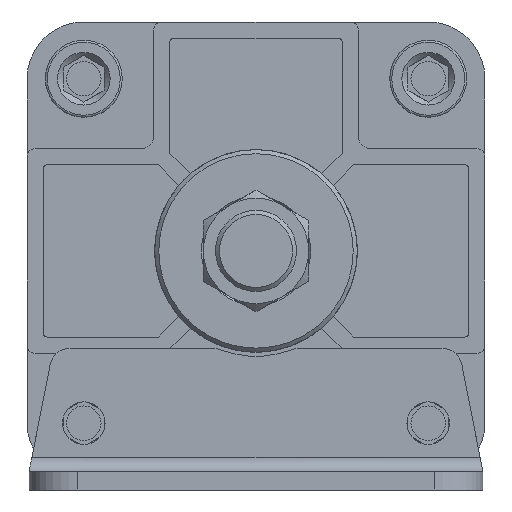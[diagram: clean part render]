
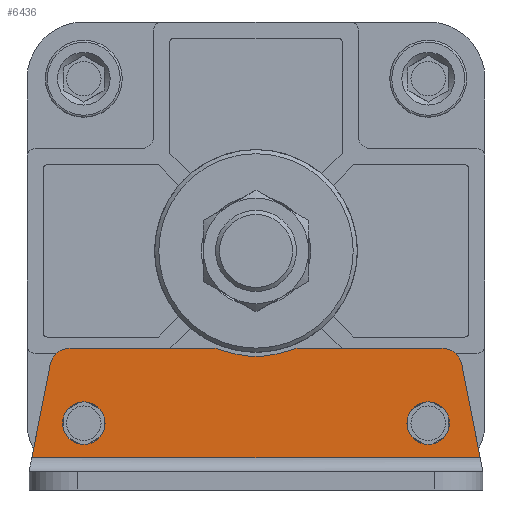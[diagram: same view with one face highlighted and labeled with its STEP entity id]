
A CAD part, front view. The second image highlights one B-rep face of the part: STEP entity #6436.
In plain terms, the highlighted planar face has unit normal (0, -1, 0).
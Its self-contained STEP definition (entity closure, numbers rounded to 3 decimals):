
#564=LINE('',#9686,#954);
#568=LINE('',#9697,#958);
#572=LINE('',#9710,#962);
#576=LINE('',#9719,#966);
#580=LINE('',#9737,#970);
#954=VECTOR('',#8213,1000.);
#958=VECTOR('',#8221,1000.);
#962=VECTOR('',#8233,1000.);
#966=VECTOR('',#8239,1000.);
#970=VECTOR('',#8257,1000.);
#2102=ORIENTED_EDGE('',*,*,#2851,.T.);
#2103=ORIENTED_EDGE('',*,*,#2852,.T.);
#2104=ORIENTED_EDGE('',*,*,#2836,.T.);
#2105=ORIENTED_EDGE('',*,*,#2853,.T.);
#2106=ORIENTED_EDGE('',*,*,#2838,.T.);
#2107=ORIENTED_EDGE('',*,*,#2854,.T.);
#2108=ORIENTED_EDGE('',*,*,#2842,.T.);
#2109=ORIENTED_EDGE('',*,*,#2855,.T.);
#2110=ORIENTED_EDGE('',*,*,#2846,.T.);
#2111=ORIENTED_EDGE('',*,*,#2856,.T.);
#2112=ORIENTED_EDGE('',*,*,#2831,.T.);
#2113=ORIENTED_EDGE('',*,*,#2857,.T.);
#2831=EDGE_CURVE('',#3318,#3317,#564,.T.);
#2836=EDGE_CURVE('',#3323,#3322,#568,.T.);
#2838=EDGE_CURVE('',#3324,#3325,#3565,.T.);
#2842=EDGE_CURVE('',#3328,#3329,#572,.T.);
#2846=EDGE_CURVE('',#3332,#3333,#576,.T.);
#2851=EDGE_CURVE('',#3337,#3337,#3567,.T.);
#2852=EDGE_CURVE('',#3338,#3338,#3568,.T.);
#2853=EDGE_CURVE('',#3322,#3324,#3569,.F.);
#2854=EDGE_CURVE('',#3325,#3328,#3570,.F.);
#2855=EDGE_CURVE('',#3329,#3332,#3571,.F.);
#2856=EDGE_CURVE('',#3333,#3318,#580,.T.);
#2857=EDGE_CURVE('',#3317,#3323,#3572,.F.);
#3317=VERTEX_POINT('',#9685);
#3318=VERTEX_POINT('',#9687);
#3322=VERTEX_POINT('',#9696);
#3323=VERTEX_POINT('',#9698);
#3324=VERTEX_POINT('',#9702);
#3325=VERTEX_POINT('',#9703);
#3328=VERTEX_POINT('',#9711);
#3329=VERTEX_POINT('',#9712);
#3332=VERTEX_POINT('',#9720);
#3333=VERTEX_POINT('',#9721);
#3337=VERTEX_POINT('',#9731);
#3338=VERTEX_POINT('',#9733);
#3565=CIRCLE('',#6935,25.);
#3567=CIRCLE('',#6941,5.25);
#3568=CIRCLE('',#6942,5.25);
#3569=CIRCLE('',#6943,5.);
#3570=CIRCLE('',#6944,5.);
#3571=CIRCLE('',#6945,5.);
#3572=CIRCLE('',#6946,5.);
#3923=EDGE_LOOP('',(#2102));
#3924=EDGE_LOOP('',(#2103));
#3925=EDGE_LOOP('',(#2104,#2105,#2106,#2107,#2108,#2109,#2110,#2111,#2112,
#2113));
#4301=FACE_BOUND('',#3923,.T.);
#4302=FACE_BOUND('',#3924,.T.);
#4303=FACE_BOUND('',#3925,.T.);
#4505=PLANE('',#6940);
#6436=ADVANCED_FACE('',(#4301,#4302,#4303),#4505,.F.);
#6935=AXIS2_PLACEMENT_3D('',#9701,#8225,#8226);
#6940=AXIS2_PLACEMENT_3D('',#9729,#8245,#8246);
#6941=AXIS2_PLACEMENT_3D('',#9730,#8247,#8248);
#6942=AXIS2_PLACEMENT_3D('',#9732,#8249,#8250);
#6943=AXIS2_PLACEMENT_3D('',#9734,#8251,#8252);
#6944=AXIS2_PLACEMENT_3D('',#9735,#8253,#8254);
#6945=AXIS2_PLACEMENT_3D('',#9736,#8255,#8256);
#6946=AXIS2_PLACEMENT_3D('',#9738,#8258,#8259);
#8213=DIRECTION('',(-0.193,0.,0.981));
#8221=DIRECTION('',(-1.,0.,0.));
#8225=DIRECTION('',(0.,1.,0.));
#8226=DIRECTION('',(1.,0.,0.));
#8233=DIRECTION('',(-1.,0.,0.));
#8239=DIRECTION('',(-0.193,0.,-0.981));
#8245=DIRECTION('',(0.,1.,0.));
#8246=DIRECTION('',(0.,0.,1.));
#8247=DIRECTION('',(0.,1.,0.));
#8248=DIRECTION('',(1.,0.,0.));
#8249=DIRECTION('',(0.,1.,0.));
#8250=DIRECTION('',(1.,0.,0.));
#8251=DIRECTION('',(0.,1.,0.));
#8252=DIRECTION('',(0.,0.,1.));
#8253=DIRECTION('',(0.,1.,0.));
#8254=DIRECTION('',(0.,0.,1.));
#8255=DIRECTION('',(0.,1.,0.));
#8256=DIRECTION('',(0.,0.,1.));
#8257=DIRECTION('',(1.,0.,0.));
#8258=DIRECTION('',(0.,1.,0.));
#8259=DIRECTION('',(0.,0.,1.));
#9685=CARTESIAN_POINT('',(50.794,-4.5,-28.035));
#9686=CARTESIAN_POINT('',(50.,-4.5,-24.));
#9687=CARTESIAN_POINT('',(55.311,-4.5,-51.));
#9696=CARTESIAN_POINT('',(10.77,-4.5,-24.));
#9697=CARTESIAN_POINT('',(9.798,-4.5,-24.));
#9698=CARTESIAN_POINT('',(45.888,-4.5,-24.));
#9701=CARTESIAN_POINT('',(0.,-4.5,-1.));
#9702=CARTESIAN_POINT('',(8.975,-4.5,-24.333));
#9703=CARTESIAN_POINT('',(-8.975,-4.5,-24.333));
#9710=CARTESIAN_POINT('',(-9.798,-4.5,-24.));
#9711=CARTESIAN_POINT('',(-10.77,-4.5,-24.));
#9712=CARTESIAN_POINT('',(-45.888,-4.5,-24.));
#9719=CARTESIAN_POINT('',(-50.,-4.5,-24.));
#9720=CARTESIAN_POINT('',(-50.794,-4.5,-28.035));
#9721=CARTESIAN_POINT('',(-55.311,-4.5,-51.));
#9729=CARTESIAN_POINT('',(0.,-4.5,-1.));
#9730=CARTESIAN_POINT('',(-42.5,-4.5,-42.5));
#9731=CARTESIAN_POINT('',(-37.25,-4.5,-42.5));
#9732=CARTESIAN_POINT('',(42.5,-4.5,-42.5));
#9733=CARTESIAN_POINT('',(47.75,-4.5,-42.5));
#9734=CARTESIAN_POINT('',(10.77,-4.5,-29.));
#9735=CARTESIAN_POINT('',(-10.77,-4.5,-29.));
#9736=CARTESIAN_POINT('',(-45.888,-4.5,-29.));
#9737=CARTESIAN_POINT('',(0.,-4.5,-51.));
#9738=CARTESIAN_POINT('',(45.888,-4.5,-29.));
